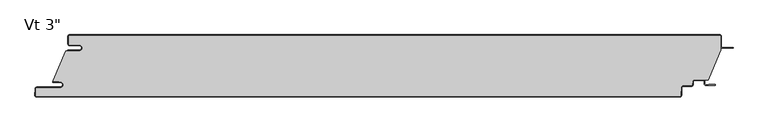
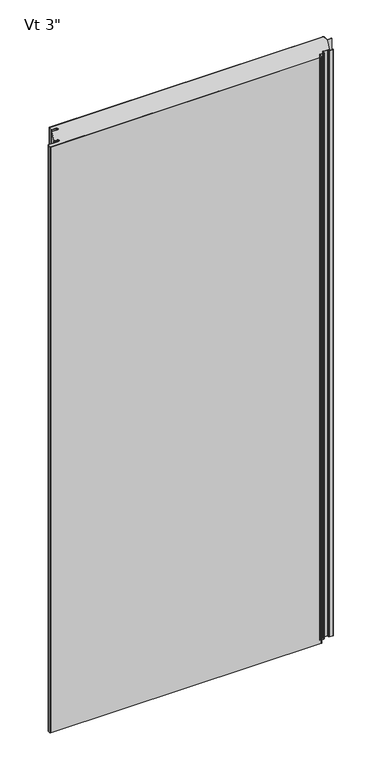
"""IFC4 building model written with IfcOpenShell, lengths in millimetres: plate geometry."""

from ifc_helpers import new_model, si_unit, point, frame, frame_2d, origin, origin_with_axes, place, context, project, spatial, polyline, circle_curve, ellipse_curve, trimmed, segment, composite_curve, outline, extrude, source, transform, mapped, element, save
from ifc_brep_helpers import plane_surface, cylinder_surface, revolved_surface, extruded_surface, advanced_brep


def plate_3f556fd6(model_context):
    return source(origin(), model_context, "Body", "SolidModel", [
        extrude(outline(composite_curve([segment(polyline([(-514.3437502, -16.4625), (-530.2187502, -16.4625)]), True, "CONTINUOUS"), segment(trimmed(circle_curve(frame_2d((-530.2187502, -15.08125)), 1.38125), [point((-530.2187502, -16.4625))], [point((-531.6000002, -15.08125))], False, "CARTESIAN"), True, "CONTINUOUS"), segment(polyline([(-531.6000002, -15.08125), (-531.6000002, -2.38125)]), True, "CONTINUOUS"), segment(trimmed(circle_curve(frame_2d((-530.2187502, -2.38125)), 1.38125), [point((-531.6000002, -2.38125))], [point((-530.2187502, -1.0))], False, "CARTESIAN"), True, "CONTINUOUS"), segment(polyline([(-530.2187502, -1.0), (530.2312498, -1.0)]), True, "CONTINUOUS"), segment(trimmed(circle_curve(frame_2d((530.2312498, -2.38125)), 1.38125), [point((530.2312498, -1.0))], [point((531.6124998, -2.38125))], False, "CARTESIAN"), True, "CONTINUOUS"), segment(polyline([(531.6124998, -2.38125), (531.6124998, -24.9057308), (510.7955432, -73.6125), (488.3540781, -73.6125)]), True, "CONTINUOUS"), segment(trimmed(circle_curve(frame_2d((488.3540781, -76.2)), 2.5875), [point((488.3540781, -73.6125))], [point((485.7701242, -76.0645807))], True, "CARTESIAN"), True, "CONTINUOUS"), segment(polyline([(485.7701242, -76.0645807), (485.4680479, -81.828539)]), True, "CONTINUOUS"), segment(trimmed(circle_curve(frame_2d((484.0886909, -81.75625)), 1.38125), [point((485.4680479, -81.828539))], [point((484.0886909, -83.1375))], False, "CARTESIAN"), True, "CONTINUOUS"), segment(polyline([(484.0886909, -83.1375), (469.9323845, -83.1375)]), True, "CONTINUOUS"), segment(trimmed(circle_curve(frame_2d((469.9323845, -85.725)), 2.5875), [point((469.9323845, -83.1375))], [point((467.3484306, -85.5895807))], True, "CARTESIAN"), True, "CONTINUOUS"), segment(polyline([(467.3484306, -85.5895807), (466.6303676, -99.291039)]), True, "CONTINUOUS"), segment(trimmed(circle_curve(frame_2d((465.2510105, -99.21875)), 1.38125), [point((466.6303676, -99.291039))], [point((465.2510105, -100.6))], False, "CARTESIAN"), True, "CONTINUOUS"), segment(polyline([(465.2510105, -100.6), (-584.0799537, -100.6)]), True, "CONTINUOUS"), segment(trimmed(circle_curve(frame_2d((-584.0799537, -99.21875)), 1.38125), [point((-584.0799537, -100.6))], [point((-585.4593107, -99.146461))], False, "CARTESIAN"), True, "CONTINUOUS"), segment(polyline([(-585.4593107, -99.146461), (-584.8769293, -88.033961)]), True, "CONTINUOUS"), segment(trimmed(circle_curve(frame_2d((-583.4975722, -88.10625)), 1.38125), [point((-584.8769293, -88.033961))], [point((-583.4975722, -86.725))], False, "CARTESIAN"), True, "CONTINUOUS"), segment(polyline([(-583.4975722, -86.725), (-545.3142676, -86.725)]), True, "CONTINUOUS"), segment(trimmed(circle_curve(frame_2d((-545.3142676, -81.75625)), 4.96875), [point((-545.3142676, -86.725))], [point((-545.3142676, -76.7875))], True, "CARTESIAN"), True, "CONTINUOUS"), segment(polyline([(-545.3142676, -76.7875), (-546.9017676, -76.99375), (-546.9017676, -76.2), (-556.4125002, -76.2), (-556.4125002, -74.6157227), (-536.5260924, -26.4), (-514.3437502, -26.4)]), True, "CONTINUOUS"), segment(trimmed(circle_curve(frame_2d((-514.3437502, -21.43125)), 4.96875), [point((-514.3437502, -26.4))], [point((-514.3437502, -16.4625))], True, "CARTESIAN"), True, "CONTINUOUS")], self_intersect=False)), origin_with_axes(), (0.0, 0.0, 1.0), 2400.0),
        extrude(outline(composite_curve([segment(polyline([(-532.6000002, -25.4), (-514.3437502, -25.4)]), True, "CONTINUOUS"), segment(trimmed(circle_curve(frame_2d((-514.3437502, -21.43125)), 3.96875), [point((-514.3437502, -25.4))], [point((-514.3437502, -17.4625))], True, "CARTESIAN"), True, "CONTINUOUS"), segment(polyline([(-514.3437502, -17.4625), (-530.2187502, -17.4625)]), True, "CONTINUOUS"), segment(trimmed(circle_curve(frame_2d((-530.2187502, -15.08125)), 2.38125), [point((-530.2187502, -17.4625))], [point((-532.6000002, -15.08125))], False, "CARTESIAN"), True, "CONTINUOUS"), segment(polyline([(-532.6000002, -15.08125), (-532.6000002, -2.38125)]), True, "CONTINUOUS"), segment(trimmed(circle_curve(frame_2d((-530.2187502, -2.38125)), 2.38125), [point((-532.6000002, -2.38125))], [point((-530.2187502, 0.0))], False, "CARTESIAN"), True, "CONTINUOUS"), segment(polyline([(-530.2187502, 0.0), (530.2312498, 0.0)]), True, "CONTINUOUS"), segment(trimmed(circle_curve(frame_2d((530.2312498, -2.38125)), 2.38125), [point((530.2312498, 0.0))], [point((532.6124998, -2.38125))], False, "CARTESIAN"), True, "CONTINUOUS"), segment(polyline([(532.6124998, -2.38125), (532.6124998, -19.446875)]), True, "CONTINUOUS"), segment(trimmed(circle_curve(frame_2d((534.1999998, -19.446875)), 1.5875), [point((532.6124998, -19.446875))], [point((534.1999998, -21.034375))], True, "CARTESIAN"), True, "CONTINUOUS"), segment(polyline([(534.1999998, -21.034375), (551.6624998, -21.034375), (551.6624998, -22.034375), (534.1999998, -22.034375)]), True, "CONTINUOUS"), segment(trimmed(circle_curve(frame_2d((534.1999998, -19.446875)), 2.5875), [point((534.1999998, -22.034375))], [point((531.6124998, -19.446875))], False, "CARTESIAN"), True, "CONTINUOUS"), segment(polyline([(531.6124998, -19.446875), (531.6124998, -2.38125)]), True, "CONTINUOUS"), segment(trimmed(circle_curve(frame_2d((530.2312498, -2.38125)), 1.38125), [point((531.6124998, -2.38125))], [point((530.2312498, -1.0))], True, "CARTESIAN"), True, "CONTINUOUS"), segment(polyline([(530.2312498, -1.0), (-530.2187502, -1.0)]), True, "CONTINUOUS"), segment(trimmed(circle_curve(frame_2d((-530.2187502, -2.38125)), 1.38125), [point((-530.2187502, -1.0))], [point((-531.6000002, -2.38125))], True, "CARTESIAN"), True, "CONTINUOUS"), segment(polyline([(-531.6000002, -2.38125), (-531.6000002, -15.08125)]), True, "CONTINUOUS"), segment(trimmed(circle_curve(frame_2d((-530.2187502, -15.08125)), 1.38125), [point((-531.6000002, -15.08125))], [point((-530.2187502, -16.4625))], True, "CARTESIAN"), True, "CONTINUOUS"), segment(polyline([(-530.2187502, -16.4625), (-514.3437502, -16.4625)]), True, "CONTINUOUS"), segment(trimmed(circle_curve(frame_2d((-514.3437502, -21.43125)), 4.96875), [point((-514.3437502, -16.4625))], [point((-514.3437502, -26.4))], False, "CARTESIAN"), True, "CONTINUOUS"), segment(polyline([(-514.3437502, -26.4), (-532.6000002, -26.4), (-532.6000002, -25.4)]), True, "CONTINUOUS")], self_intersect=False)), origin_with_axes(), (0.0, 0.0, 1.0), 2400.0),
        advanced_brep(
        [(-556.6252051, -76.2, 2400.0), (-556.6252051, -77.7875, 2400.0), (-545.3142676, -77.7875, 2400.0), (-545.3142676, -85.725, 2400.0), (-583.4975722, -85.725, 2400.0), (-585.8755588, -87.981625, 2400.0), (-586.4579402, -99.094125, 2400.0), (-584.0799537, -101.6, 2400.0), (465.2510105, -101.6, 2400.0), (467.6289971, -99.343375, 2400.0), (468.3470601, -85.6419167, 2400.0), (469.9323845, -84.1375, 2400.0), (484.0886909, -84.1375, 2400.0), (486.4666775, -81.880875, 2400.0), (486.7687537, -76.1169167, 2400.0), (488.3540781, -74.6125, 2400.0), (503.2294824, -74.6125, 2400.0), (504.8169824, -76.2, 2400.0), (504.8169824, -80.3671875, 2400.0), (507.1982324, -82.7484375, 2400.0), (521.689853, -82.7484375, 2400.0), (521.689853, -80.9546875, 2400.0), (511.9607324, -80.9546875, 2400.0), (511.9607324, -81.7484375, 2400.0), (507.1982324, -81.7484375, 2400.0), (505.8169824, -80.3671875, 2400.0), (505.8169824, -76.2, 2400.0), (503.2294824, -73.6125, 2400.0), (488.3540781, -73.6125, 2400.0), (485.7701242, -76.0645807, 2400.0), (485.4680479, -81.828539, 2400.0), (484.0886909, -83.1375, 2400.0), (469.9323845, -83.1375, 2400.0), (467.3484306, -85.5895807, 2400.0), (466.6303676, -99.291039, 2400.0), (465.2510105, -100.6, 2400.0), (-584.0799537, -100.6, 2400.0), (-585.4593107, -99.146461, 2400.0), (-584.8769293, -88.033961, 2400.0), (-583.4975722, -86.725, 2400.0), (-545.3142676, -86.725, 2400.0), (-545.3142676, -76.7875, 2400.0), (-546.9017676, -76.99375, 2400.0), (-546.9017676, -76.2, 2400.0), (-556.6252051, -76.2, 0.0), (-546.9017676, -76.2, 0.0), (-546.9017676, -76.99375, 0.0), (-545.3142676, -76.7875, 0.0), (-545.3142676, -86.725, 0.0), (-583.4975722, -86.725, 0.0), (-584.8769293, -88.033961, 0.0), (-585.4593107, -99.146461, 0.0), (-584.0799537, -100.6, 0.0), (465.2510105, -100.6, 0.0), (466.6303676, -99.291039, 0.0), (467.3484306, -85.5895807, 0.0), (469.9323845, -83.1375, 0.0), (484.0886909, -83.1375, 0.0), (485.4680479, -81.828539, 0.0), (485.7701242, -76.0645807, 0.0), (488.3540781, -73.6125, 0.0), (503.2294824, -73.6125, 0.0), (505.8169824, -76.2, 0.0), (505.8169824, -80.3671875, 0.0), (507.1982324, -81.7484375, 0.0), (511.9607324, -81.7484375, 0.0), (511.9607324, -80.9546875, 0.0), (521.689853, -80.9546875, 0.0), (521.689853, -82.7484375, 0.0), (507.1982324, -82.7484375, 0.0), (504.8169824, -80.3671875, 0.0), (504.8169824, -76.2, 0.0), (503.2294824, -74.6125, 0.0), (488.3540781, -74.6125, 0.0), (486.7687537, -76.1169167, 0.0), (486.4666775, -81.880875, 0.0), (484.0886909, -84.1375, 0.0), (469.9323845, -84.1375, 0.0), (468.3470601, -85.6419167, 0.0), (467.6289971, -99.343375, 0.0), (465.2510105, -101.6, 0.0), (-584.0799537, -101.6, 0.0), (-586.4579402, -99.094125, 0.0), (-585.8755588, -87.981625, 0.0), (-583.4975722, -85.725, 0.0), (-545.3142676, -85.725, 0.0), (-545.3142676, -77.7875, 0.0), (-556.6252051, -77.7875, 0.0)],
        [
            (0, 1, circle_curve(frame((-556.6252051, -76.99375, 2400.0), z_axis=(0.0, 0.0, 1.0), x_axis=(-1.0, 0.0, 0.0)), 0.79375)),
            (1, 2),
            (2, 3, circle_curve(frame((-545.3142676, -81.75625, 2400.0), z_axis=(0.0, 0.0, -1.0), x_axis=(-1.0, 0.0, 0.0)), 3.96875)),
            (3, 4),
            (4, 5, circle_curve(frame((-583.4975722, -88.10625, 2400.0), z_axis=(0.0, 0.0, 1.0), x_axis=(-1.0, 0.0, 0.0)), 2.38125)),
            (5, 6),
            (6, 7, circle_curve(frame((-584.0799537, -99.21875, 2400.0), z_axis=(0.0, 0.0, 1.0), x_axis=(-1.0, 0.0, 0.0)), 2.38125)),
            (7, 8),
            (8, 9, circle_curve(frame((465.2510105, -99.21875, 2400.0), z_axis=(0.0, 0.0, 1.0), x_axis=(-1.0, 0.0, 0.0)), 2.38125)),
            (9, 10),
            (10, 11, circle_curve(frame((469.9323845, -85.725, 2400.0), z_axis=(0.0, 0.0, -1.0), x_axis=(-1.0, 0.0, 0.0)), 1.5875)),
            (11, 12),
            (12, 13, circle_curve(frame((484.0886909, -81.75625, 2400.0), z_axis=(0.0, 0.0, 1.0), x_axis=(-1.0, 0.0, 0.0)), 2.38125)),
            (13, 14),
            (14, 15, circle_curve(frame((488.3540781, -76.2, 2400.0), z_axis=(0.0, 0.0, -1.0), x_axis=(-1.0, 0.0, 0.0)), 1.5875)),
            (15, 16),
            (16, 17, circle_curve(frame((503.2294824, -76.2, 2400.0), z_axis=(0.0, 0.0, -1.0), x_axis=(-1.0, 0.0, 0.0)), 1.5875)),
            (17, 18),
            (18, 19, circle_curve(frame((507.1982324, -80.3671875, 2400.0), z_axis=(0.0, 0.0, 1.0), x_axis=(-1.0, 0.0, 0.0)), 2.38125)),
            (19, 20),
            (20, 21, ellipse_curve(frame((521.689853, -81.8515625, 2400.0), z_axis=(0.0, 0.0, 1.0), x_axis=(0.0, 1.0, 0.0)), 0.896875, 0.7852275)),
            (21, 22),
            (22, 23),
            (23, 24),
            (24, 25, circle_curve(frame((507.1982324, -80.3671875, 2400.0), z_axis=(0.0, 0.0, -1.0), x_axis=(-1.0, 0.0, 0.0)), 1.38125)),
            (25, 26),
            (26, 27, circle_curve(frame((503.2294824, -76.2, 2400.0), z_axis=(0.0, 0.0, 1.0), x_axis=(-1.0, 0.0, 0.0)), 2.5875)),
            (27, 28),
            (28, 29, circle_curve(frame((488.3540781, -76.2, 2400.0), z_axis=(0.0, 0.0, 1.0), x_axis=(-1.0, 0.0, 0.0)), 2.5875)),
            (29, 30),
            (30, 31, circle_curve(frame((484.0886909, -81.75625, 2400.0), z_axis=(0.0, 0.0, -1.0), x_axis=(-1.0, 0.0, 0.0)), 1.38125)),
            (31, 32),
            (32, 33, circle_curve(frame((469.9323845, -85.725, 2400.0), z_axis=(0.0, 0.0, 1.0), x_axis=(-1.0, 0.0, 0.0)), 2.5875)),
            (33, 34),
            (34, 35, circle_curve(frame((465.2510105, -99.21875, 2400.0), z_axis=(0.0, 0.0, -1.0), x_axis=(-1.0, 0.0, 0.0)), 1.38125)),
            (35, 36),
            (36, 37, circle_curve(frame((-584.0799537, -99.21875, 2400.0), z_axis=(0.0, 0.0, -1.0), x_axis=(-1.0, 0.0, 0.0)), 1.38125)),
            (37, 38),
            (38, 39, circle_curve(frame((-583.4975722, -88.10625, 2400.0), z_axis=(0.0, 0.0, -1.0), x_axis=(-1.0, 0.0, 0.0)), 1.38125)),
            (39, 40),
            (40, 41, circle_curve(frame((-545.3142676, -81.75625, 2400.0), z_axis=(0.0, 0.0, 1.0), x_axis=(-1.0, 0.0, 0.0)), 4.96875)),
            (41, 42),
            (42, 43),
            (43, 0),
            (44, 45),
            (45, 46),
            (46, 47),
            (47, 48, circle_curve(frame((-545.3142676, -81.75625, 0.0), z_axis=(0.0, 0.0, -1.0), x_axis=(-1.0, 0.0, 0.0)), 4.96875)),
            (48, 49),
            (49, 50, circle_curve(frame((-583.4975722, -88.10625, 0.0), z_axis=(0.0, 0.0, 1.0), x_axis=(-1.0, 0.0, 0.0)), 1.38125)),
            (50, 51),
            (51, 52, circle_curve(frame((-584.0799537, -99.21875, 0.0), z_axis=(0.0, 0.0, 1.0), x_axis=(-1.0, 0.0, 0.0)), 1.38125)),
            (52, 53),
            (53, 54, circle_curve(frame((465.2510105, -99.21875, 0.0), z_axis=(0.0, 0.0, 1.0), x_axis=(-1.0, 0.0, 0.0)), 1.38125)),
            (54, 55),
            (55, 56, circle_curve(frame((469.9323845, -85.725, 0.0), z_axis=(0.0, 0.0, -1.0), x_axis=(-1.0, 0.0, 0.0)), 2.5875)),
            (56, 57),
            (57, 58, circle_curve(frame((484.0886909, -81.75625, 0.0), z_axis=(0.0, 0.0, 1.0), x_axis=(-1.0, 0.0, 0.0)), 1.38125)),
            (58, 59),
            (59, 60, circle_curve(frame((488.3540781, -76.2, 0.0), z_axis=(0.0, 0.0, -1.0), x_axis=(-1.0, 0.0, 0.0)), 2.5875)),
            (60, 61),
            (61, 62, circle_curve(frame((503.2294824, -76.2, 0.0), z_axis=(0.0, 0.0, -1.0), x_axis=(-1.0, 0.0, 0.0)), 2.5875)),
            (62, 63),
            (63, 64, circle_curve(frame((507.1982324, -80.3671875, 0.0), z_axis=(0.0, 0.0, 1.0), x_axis=(-1.0, 0.0, 0.0)), 1.38125)),
            (64, 65),
            (65, 66),
            (66, 67),
            (67, 68, ellipse_curve(frame((521.689853, -81.8515625, 0.0), z_axis=(0.0, 0.0, -1.0), x_axis=(0.0, 1.0, 0.0)), 0.896875, 0.7852275)),
            (68, 69),
            (69, 70, circle_curve(frame((507.1982324, -80.3671875, 0.0), z_axis=(0.0, 0.0, -1.0), x_axis=(-1.0, 0.0, 0.0)), 2.38125)),
            (70, 71),
            (71, 72, circle_curve(frame((503.2294824, -76.2, 0.0), z_axis=(0.0, 0.0, 1.0), x_axis=(-1.0, 0.0, 0.0)), 1.5875)),
            (72, 73),
            (73, 74, circle_curve(frame((488.3540781, -76.2, 0.0), z_axis=(0.0, 0.0, 1.0), x_axis=(-1.0, 0.0, 0.0)), 1.5875)),
            (74, 75),
            (75, 76, circle_curve(frame((484.0886909, -81.75625, 0.0), z_axis=(0.0, 0.0, -1.0), x_axis=(-1.0, 0.0, 0.0)), 2.38125)),
            (76, 77),
            (77, 78, circle_curve(frame((469.9323845, -85.725, 0.0), z_axis=(0.0, 0.0, 1.0), x_axis=(-1.0, 0.0, 0.0)), 1.5875)),
            (78, 79),
            (79, 80, circle_curve(frame((465.2510105, -99.21875, 0.0), z_axis=(0.0, 0.0, -1.0), x_axis=(-1.0, 0.0, 0.0)), 2.38125)),
            (80, 81),
            (81, 82, circle_curve(frame((-584.0799537, -99.21875, 0.0), z_axis=(0.0, 0.0, -1.0), x_axis=(-1.0, 0.0, 0.0)), 2.38125)),
            (82, 83),
            (83, 84, circle_curve(frame((-583.4975722, -88.10625, 0.0), z_axis=(0.0, 0.0, -1.0), x_axis=(-1.0, 0.0, 0.0)), 2.38125)),
            (84, 85),
            (85, 86, circle_curve(frame((-545.3142676, -81.75625, 0.0), z_axis=(0.0, 0.0, 1.0), x_axis=(-1.0, 0.0, 0.0)), 3.96875)),
            (86, 87),
            (87, 44, circle_curve(frame((-556.6252051, -76.99375, 0.0), z_axis=(0.0, 0.0, -1.0), x_axis=(-1.0, 0.0, 0.0)), 0.79375)),
            (43, 45),
            (44, 0),
            (87, 1),
            (86, 2),
            (85, 3),
            (84, 4),
            (83, 5),
            (82, 6),
            (81, 7),
            (80, 8),
            (79, 9),
            (78, 10),
            (77, 11),
            (76, 12),
            (75, 13),
            (74, 14),
            (73, 15),
            (38, 50),
            (49, 39),
            (37, 51),
            (36, 52),
            (35, 53),
            (34, 54),
            (33, 55),
            (32, 56),
            (31, 57),
            (30, 58),
            (29, 59),
            (28, 60),
            (23, 65),
            (64, 24),
            (63, 25),
            (62, 26),
            (72, 16),
            (71, 17),
            (70, 18),
            (69, 19),
            (68, 20),
            (27, 61),
            (48, 40),
            (47, 41),
            (42, 46),
            (22, 66),
            (21, 67),
        ],
        [
            plane_surface(frame((0.0062498, -101.6, 2400.0), z_axis=(0.0, 0.0, 1.0), x_axis=(0.0, -1.0, 0.0))),
            plane_surface(frame((0.0062498, -101.6, 0.0), z_axis=(0.0, 0.0, -1.0), x_axis=(0.0, -1.0, 0.0))),
            plane_surface(frame((-556.6252051, -76.2, 2400.0), z_axis=(0.0, 1.0, 0.0), x_axis=(0.0, 0.0, -1.0))),
            cylinder_surface(frame((-556.6252051, -76.99375, 2400.0), z_axis=(0.0, 0.0, 1.0), x_axis=(-1.0, 0.0, 0.0)), 0.79375),
            plane_surface(frame((-545.3142676, -77.7875, 2400.0), z_axis=(0.0, -1.0, 0.0), x_axis=(0.0, 0.0, -1.0))),
            revolved_surface(polyline([(-549.2830176, -81.75625, 0.0), (-549.2830176, -81.75625, 2400.0)]), (-545.3142676, -81.75625, 2400.0), (0.0, 0.0, -1.0)),
            plane_surface(frame((-583.4975722, -85.725, 2400.0), z_axis=(0.0, 1.0, 0.0), x_axis=(0.0, 0.0, -1.0))),
            cylinder_surface(frame((-583.4975722, -88.10625, 2400.0), z_axis=(0.0, 0.0, 1.0), x_axis=(-1.0, 0.0, 0.0)), 2.38125),
            plane_surface(frame((-586.4579402, -99.094125, 2400.0), z_axis=(-0.9986295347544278, 0.052335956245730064, 0.0), x_axis=(0.0, 0.0, -1.0))),
            cylinder_surface(frame((-584.0799537, -99.21875, 2400.0), z_axis=(0.0, 0.0, 1.0), x_axis=(-1.0, 0.0, 0.0)), 2.38125),
            plane_surface(frame((465.2510105, -101.6, 2400.0), z_axis=(0.0, -1.0, 0.0), x_axis=(0.0, 0.0, -1.0))),
            cylinder_surface(frame((465.2510105, -99.21875, 2400.0), z_axis=(0.0, 0.0, 1.0), x_axis=(-1.0, 0.0, 0.0)), 2.38125),
            plane_surface(frame((468.3470601, -85.6419167, 2400.0), z_axis=(0.9986295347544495, -0.05233595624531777, 0.0), x_axis=(0.0, 0.0, -1.0))),
            revolved_surface(polyline([(468.34488450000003, -85.725, 0.0), (468.34488450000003, -85.725, 2400.0)]), (469.9323845, -85.725, 2400.0), (0.0, 0.0, -1.0)),
            plane_surface(frame((484.0886909, -84.1375, 2400.0), z_axis=(0.0, -1.0, 0.0), x_axis=(0.0, 0.0, -1.0))),
            cylinder_surface(frame((484.0886909, -81.75625, 2400.0), z_axis=(0.0, 0.0, 1.0), x_axis=(-1.0, 0.0, 0.0)), 2.38125),
            plane_surface(frame((486.7687537, -76.1169167, 2400.0), z_axis=(0.9986295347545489, -0.05233595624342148, 0.0), x_axis=(0.0, 0.0, -1.0))),
            revolved_surface(polyline([(486.7665781, -76.2, 0.0), (486.7665781, -76.2, 2400.0)]), (488.3540781, -76.2, 2400.0), (0.0, 0.0, -1.0)),
            revolved_surface(polyline([(-584.8788222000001, -88.10625, 0.0), (-584.8788222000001, -88.10625, 2400.0)]), (-583.4975722, -88.10625, 2400.0), (0.0, 0.0, -1.0)),
            plane_surface(frame((-584.8769293, -88.033961, 2400.0), z_axis=(0.9986295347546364, -0.05233595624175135, 0.0), x_axis=(0.0, 0.0, -1.0))),
            revolved_surface(polyline([(-585.4612037, -99.21875, 0.0), (-585.4612037, -99.21875, 2400.0)]), (-584.0799537, -99.21875, 2400.0), (0.0, 0.0, -1.0)),
            plane_surface(frame((-584.0799537, -100.6, 2400.0), z_axis=(0.0, 1.0, 0.0), x_axis=(0.0, 0.0, -1.0))),
            revolved_surface(polyline([(463.8697605, -99.21875, 0.0), (463.8697605, -99.21875, 2400.0)]), (465.2510105, -99.21875, 2400.0), (0.0, 0.0, -1.0)),
            plane_surface(frame((466.6303676, -99.291039, 2400.0), z_axis=(-0.9986295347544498, 0.05233595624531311, 0.0), x_axis=(0.0, 0.0, -1.0))),
            cylinder_surface(frame((469.9323845, -85.725, 2400.0), z_axis=(0.0, 0.0, 1.0), x_axis=(-1.0, 0.0, 0.0)), 2.5875),
            plane_surface(frame((469.9323845, -83.1375, 2400.0), z_axis=(0.0, 1.0, 0.0), x_axis=(0.0, 0.0, -1.0))),
            revolved_surface(polyline([(482.7074409, -81.75625, 0.0), (482.7074409, -81.75625, 2400.0)]), (484.0886909, -81.75625, 2400.0), (0.0, 0.0, -1.0)),
            plane_surface(frame((485.4680479, -81.828539, 2400.0), z_axis=(-0.9986295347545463, 0.05233595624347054, 0.0), x_axis=(0.0, 0.0, -1.0))),
            cylinder_surface(frame((488.3540781, -76.2, 2400.0), z_axis=(0.0, 0.0, 1.0), x_axis=(-1.0, 0.0, 0.0)), 2.5875),
            plane_surface(frame((507.1982324, -81.7484375, 2400.0), z_axis=(0.0, 1.0, 0.0), x_axis=(0.0, 0.0, -1.0))),
            revolved_surface(polyline([(505.8169824, -80.3671875, 0.0), (505.8169824, -80.3671875, 2400.0)]), (507.1982324, -80.3671875, 2400.0), (0.0, 0.0, -1.0)),
            plane_surface(frame((505.8169824, -76.2, 2400.0), z_axis=(1.0, 0.0, 0.0), x_axis=(0.0, 0.0, -1.0))),
            plane_surface(frame((503.2294824, -74.6125, 2400.0), z_axis=(0.0, -1.0, 0.0), x_axis=(0.0, 0.0, -1.0))),
            revolved_surface(polyline([(501.6419824, -76.2, 0.0), (501.6419824, -76.2, 2400.0)]), (503.2294824, -76.2, 2400.0), (0.0, 0.0, -1.0)),
            plane_surface(frame((504.8169824, -80.3671875, 2400.0), z_axis=(-1.0, 0.0, 0.0), x_axis=(0.0, 0.0, -1.0))),
            cylinder_surface(frame((507.1982324, -80.3671875, 2400.0), z_axis=(0.0, 0.0, 1.0), x_axis=(-1.0, 0.0, 0.0)), 2.38125),
            plane_surface(frame((521.689853, -82.7484375, 2400.0), z_axis=(0.0, -1.0, 0.0), x_axis=(0.0, 0.0, -1.0))),
            plane_surface(frame((488.3540781, -73.6125, 2400.0), z_axis=(0.0, 1.0, 0.0), x_axis=(0.0, 0.0, -1.0))),
            cylinder_surface(frame((503.2294824, -76.2, 2400.0), z_axis=(0.0, 0.0, 1.0), x_axis=(-1.0, 0.0, 0.0)), 2.5875),
            plane_surface(frame((-545.3142676, -86.725, 2400.0), z_axis=(0.0, -1.0, 0.0), x_axis=(0.0, 0.0, -1.0))),
            cylinder_surface(frame((-545.3142676, -81.75625, 2400.0), z_axis=(0.0, 0.0, 1.0), x_axis=(-1.0, 0.0, 0.0)), 4.96875),
            plane_surface(frame((-546.9017676, -76.2, 2400.0), z_axis=(1.0, 0.0, 0.0), x_axis=(0.0, 0.0, -1.0))),
            plane_surface(frame((-546.9017676, -76.99375, 2400.0), z_axis=(-0.128838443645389, 0.9916655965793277, 0.0), x_axis=(0.0, 0.0, -1.0))),
            plane_surface(frame((511.9607324, -81.7484375, 2400.0), z_axis=(-1.0, 0.0, 0.0), x_axis=(0.0, 0.0, -1.0))),
            plane_surface(frame((511.9607324, -80.9546875, 2400.0), z_axis=(0.0, 1.0, 0.0), x_axis=(0.0, 0.0, -1.0))),
            extruded_surface(trimmed(ellipse_curve(frame((521.689853, -81.8515625, 2400.0), z_axis=(0.0, 0.0, -1.0), x_axis=(0.0, 1.0, 0.0)), 0.896875, 0.7852275), [point((521.689853, -80.9546875, 2400.0))], [point((521.689853, -82.7484375, 2400.0))], True, "CARTESIAN"), (0.0, 0.0, -2400.0), 2400.0),
        ],
        [
            (0, [[1, 2, 3, 4, 5, 6, 7, 8, 9, 10, 11, 12, 13, 14, 15, 16, 17, 18, 19, 20, 21, 22, 23, 24, 25, 26, 27, 28, 29, 30, 31, 32, 33, 34, 35, 36, 37, 38, 39, 40, 41, 42, 43, 44]]),
            (1, [[45, 46, 47, 48, 49, 50, 51, 52, 53, 54, 55, 56, 57, 58, 59, 60, 61, 62, 63, 64, 65, 66, 67, 68, 69, 70, 71, 72, 73, 74, 75, 76, 77, 78, 79, 80, 81, 82, 83, 84, 85, 86, 87, 88]]),
            (2, [[89, -45, 90, -44]]),
            (3, [[-90, -88, 91, -1]]),
            (4, [[-91, -87, 92, -2]]),
            (5, [[-92, -86, 93, -3]]),
            (6, [[-93, -85, 94, -4]]),
            (7, [[-94, -84, 95, -5]]),
            (8, [[-95, -83, 96, -6]]),
            (9, [[-96, -82, 97, -7]]),
            (10, [[-97, -81, 98, -8]]),
            (11, [[-98, -80, 99, -9]]),
            (12, [[-99, -79, 100, -10]]),
            (13, [[-100, -78, 101, -11]]),
            (14, [[-101, -77, 102, -12]]),
            (15, [[-102, -76, 103, -13]]),
            (16, [[-103, -75, 104, -14]]),
            (17, [[-104, -74, 105, -15]]),
            (18, [[106, -50, 107, -39]]),
            (19, [[108, -51, -106, -38]]),
            (20, [[109, -52, -108, -37]]),
            (21, [[110, -53, -109, -36]]),
            (22, [[111, -54, -110, -35]]),
            (23, [[112, -55, -111, -34]]),
            (24, [[113, -56, -112, -33]]),
            (25, [[114, -57, -113, -32]]),
            (26, [[115, -58, -114, -31]]),
            (27, [[116, -59, -115, -30]]),
            (28, [[117, -60, -116, -29]]),
            (29, [[118, -65, 119, -24]]),
            (30, [[-119, -64, 120, -25]]),
            (31, [[-120, -63, 121, -26]]),
            (32, [[-105, -73, 122, -16]]),
            (33, [[-122, -72, 123, -17]]),
            (34, [[-123, -71, 124, -18]]),
            (35, [[-124, -70, 125, -19]]),
            (36, [[-125, -69, 126, -20]]),
            (37, [[127, -61, -117, -28]]),
            (38, [[-121, -62, -127, -27]]),
            (39, [[-107, -49, 128, -40]]),
            (40, [[-128, -48, 129, -41]]),
            (41, [[130, -46, -89, -43]]),
            (42, [[-129, -47, -130, -42]]),
            (43, [[131, -66, -118, -23]]),
            (44, [[132, -67, -131, -22]]),
            (45, [[-126, -68, -132, -21]]),
        ],
    ),
    ])


if __name__ == "__main__":
    model = new_model("IFC4")
    model_context = context("Model", 3, world=origin())
    ifc_project = project(units=[si_unit("LENGTHUNIT", "METRE", prefix="MILLI")], contexts=[model_context])
    site = spatial("IfcSite", under=ifc_project)
    building = spatial("IfcBuilding", under=site)
    placement = place(None, origin())
    plate_shape = plate_3f556fd6(model_context)
    element("IfcPlate", 1, ObjectType="KIP-42-DWHR-R19-CP-Vt-F : Vt 3\"", at=placement, inside=building, context=model_context, shape_type="MappedRepresentation", body=[
        mapped(plate_shape, transform((0.0, 0.0, 0.0), x_axis=(1.0, 0.0, 0.0), y_axis=(0.0, 1.0, 0.0), z_axis=(0.0, 0.0, 1.0))),
    ])
    save(model, "model.ifc")
